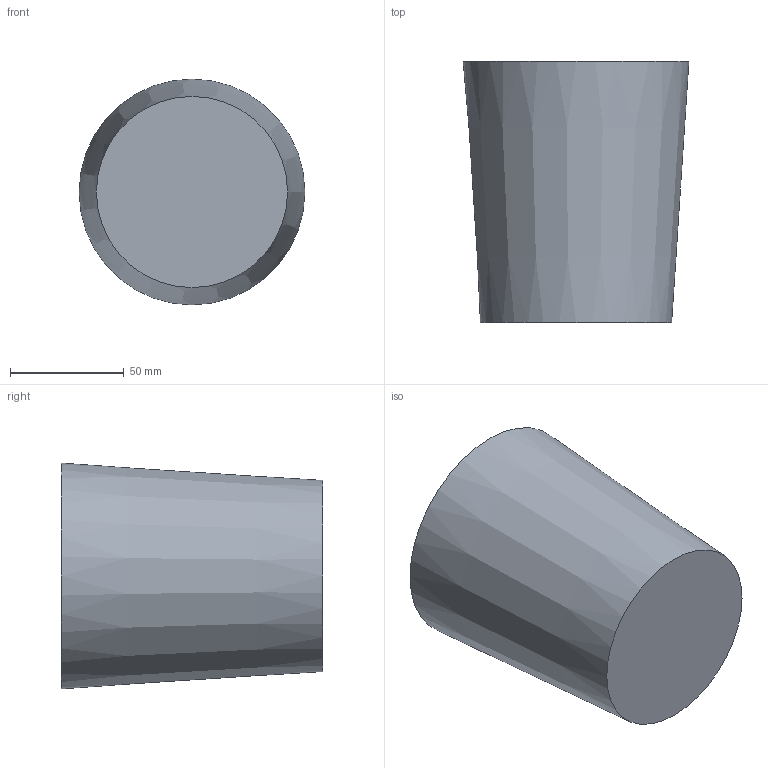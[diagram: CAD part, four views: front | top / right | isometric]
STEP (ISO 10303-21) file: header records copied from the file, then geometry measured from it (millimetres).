
FILE_DESCRIPTION(('Open CASCADE Model'),'2;1');
FILE_NAME('Open CASCADE Shape Model','2026-09-09T00:35:34',('Author'),( 'Open CASCADE'),'Open CASCADE STEP processor 7.7','Open CASCADE 7.7' ,'Unknown');
FILE_SCHEMA(('AUTOMOTIVE_DESIGN { 1 0 10303 214 1 1 1 1 }'));
Length unit declared in the file: millimetre
Products named in the file (1): Open CASCADE STEP translator 7.7 1
Bounding box: 99.4 x 114.91 x 99.4 mm (x, y, z)
Volume: 127036.9 mm3; surface area: 74240.3 mm2
Topology: 1 solids, 1 shells, 5 faces, 6 edges, 4 vertices
Faces by surface type: plane 3, cone 2
Entity records: 192 total; most frequent: DIRECTION 34, CARTESIAN_POINT 28, ORIENTED_EDGE 12, PCURVE 12, DEFINITIONAL_REPRESENTATION 12, AXIS2_PLACEMENT_3D 10, LINE 10, VECTOR 10
